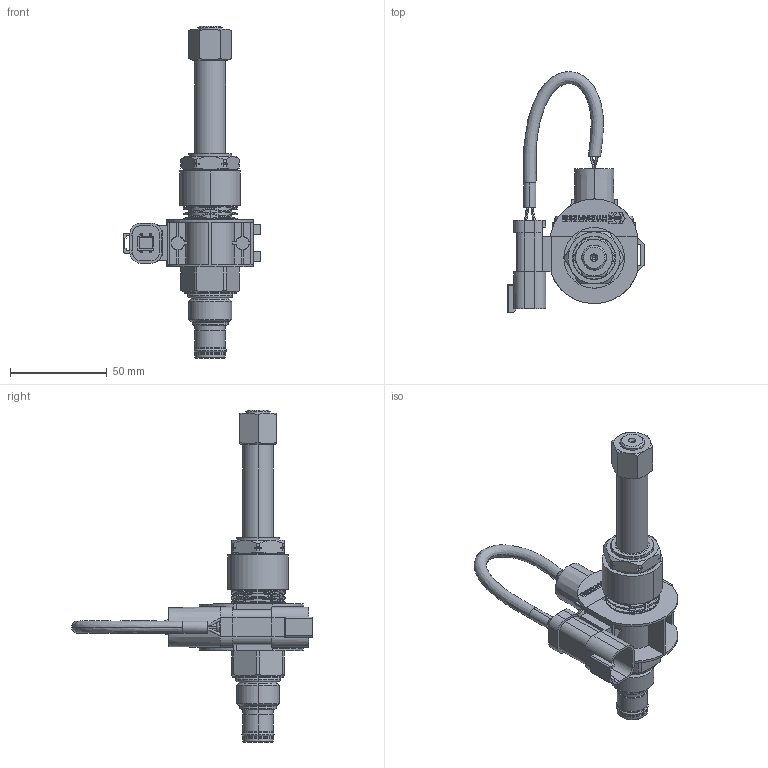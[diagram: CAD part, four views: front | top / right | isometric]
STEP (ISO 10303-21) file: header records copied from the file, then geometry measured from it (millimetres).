
FILE_DESCRIPTION((''),'2;1');
FILE_NAME('ASM0002_ASM','2021-06-23T15:31:38',('AB7'),(''),'CREO PARAMETRIC BY PTC INC, 2018020','CREO PARAMETRIC BY PTC INC, 2018020','');
FILE_SCHEMA(('CONFIG_CONTROL_DESIGN'));
Products named in the file (3): HSV10-P23A; PRT0004; ASM0002_ASM
Assembly tree (2 placements, depth 2):
  ASM0002_ASM
    HSV10-P23A
    PRT0004
Bounding box: 70.76 x 124.52 x 171.7 mm (x, y, z)
Volume: 100734 mm3; surface area: 44924.8 mm2
Topology: 2 solids, 2 shells, 923 faces, 2604 edges, 1686 vertices
Faces by surface type: plane 404, cylinder 255, cone 88, bspline 66, extrusion 64, torus 30, revolution 8, sphere 8
Entity records: 40787 total; most frequent: CARTESIAN_POINT 18122, ORIENTED_EDGE 5180, DIRECTION 3923, EDGE_CURVE 2590, VERTEX_POINT 1686, VECTOR 1405, LINE 1341, AXIS2_PLACEMENT_3D 1255
